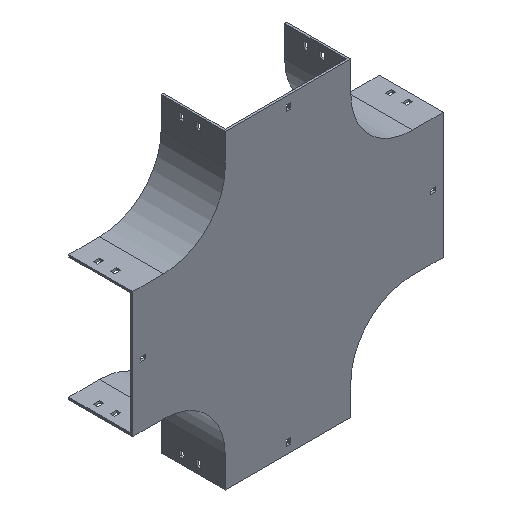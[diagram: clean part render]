
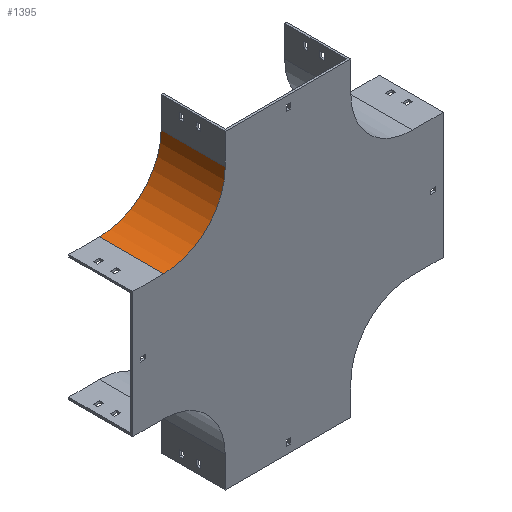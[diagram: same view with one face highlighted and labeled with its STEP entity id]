
A CAD part, isometric view. The second image highlights one B-rep face of the part: STEP entity #1395.
In plain terms, the highlighted cylindrical face has radius 100 mm (diameter 200 mm), a partial arc.
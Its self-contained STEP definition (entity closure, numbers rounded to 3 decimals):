
#36 = CARTESIAN_POINT ( 'NONE',  ( -304., 104., 0. ) ) ;
#37 = ORIENTED_EDGE ( 'NONE', *, *, #2960, .F. ) ;
#58 = ORIENTED_EDGE ( 'NONE', *, *, #1874, .T. ) ;
#66 = VERTEX_POINT ( 'NONE', #1855 ) ;
#300 = EDGE_CURVE ( 'NONE', #3513, #66, #2471, .T. ) ;
#398 = DIRECTION ( 'NONE',  ( 0., 0., -1. ) ) ;
#670 = CARTESIAN_POINT ( 'NONE',  ( -404., 104., 0. ) ) ;
#672 = CARTESIAN_POINT ( 'NONE',  ( -404., 104., 0. ) ) ;
#716 = DIRECTION ( 'NONE',  ( 0., -1., 0. ) ) ;
#765 = VERTEX_POINT ( 'NONE', #2707 ) ;
#923 = AXIS2_PLACEMENT_3D ( 'NONE', #670, #2495, #1562 ) ;
#948 = VERTEX_POINT ( 'NONE', #36 ) ;
#1395 = ADVANCED_FACE ( 'NONE', ( #3354 ), #2137, .F. ) ;
#1461 = CARTESIAN_POINT ( 'NONE',  ( -404., 104., -100. ) ) ;
#1511 = VECTOR ( 'NONE', #716, 1000. ) ;
#1562 = DIRECTION ( 'NONE',  ( 0., 0., 1. ) ) ;
#1669 = AXIS2_PLACEMENT_3D ( 'NONE', #2843, #2512, #3411 ) ;
#1781 = VECTOR ( 'NONE', #3649, 1000. ) ;
#1855 = CARTESIAN_POINT ( 'NONE',  ( -404., 0., -100. ) ) ;
#1874 = EDGE_CURVE ( 'NONE', #66, #765, #2564, .T. ) ;
#1889 = DIRECTION ( 'NONE',  ( 0., -1., 0. ) ) ;
#2137 = CYLINDRICAL_SURFACE ( 'NONE', #2752, 100. ) ;
#2253 = EDGE_LOOP ( 'NONE', ( #58, #2639, #37, #3817 ) ) ;
#2471 = LINE ( 'NONE', #3361, #1511 ) ;
#2495 = DIRECTION ( 'NONE',  ( 0., -1., 0. ) ) ;
#2512 = DIRECTION ( 'NONE',  ( 0., -1., 0. ) ) ;
#2564 = CIRCLE ( 'NONE', #1669, 100. ) ;
#2569 = CIRCLE ( 'NONE', #923, 100. ) ;
#2639 = ORIENTED_EDGE ( 'NONE', *, *, #2862, .F. ) ;
#2707 = CARTESIAN_POINT ( 'NONE',  ( -304., 0., 0. ) ) ;
#2752 = AXIS2_PLACEMENT_3D ( 'NONE', #672, #1889, #398 ) ;
#2843 = CARTESIAN_POINT ( 'NONE',  ( -404., 0., 0. ) ) ;
#2862 = EDGE_CURVE ( 'NONE', #948, #765, #3066, .T. ) ;
#2960 = EDGE_CURVE ( 'NONE', #3513, #948, #2569, .T. ) ;
#3066 = LINE ( 'NONE', #3352, #1781 ) ;
#3352 = CARTESIAN_POINT ( 'NONE',  ( -304., 104., 0. ) ) ;
#3354 = FACE_OUTER_BOUND ( 'NONE', #2253, .T. ) ;
#3361 = CARTESIAN_POINT ( 'NONE',  ( -404., 104., -100. ) ) ;
#3411 = DIRECTION ( 'NONE',  ( 0., 0., 1. ) ) ;
#3513 = VERTEX_POINT ( 'NONE', #1461 ) ;
#3649 = DIRECTION ( 'NONE',  ( 0., -1., 0. ) ) ;
#3817 = ORIENTED_EDGE ( 'NONE', *, *, #300, .T. ) ;
